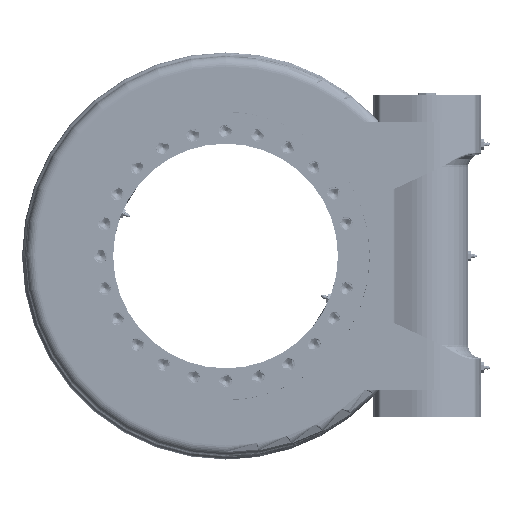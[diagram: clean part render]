
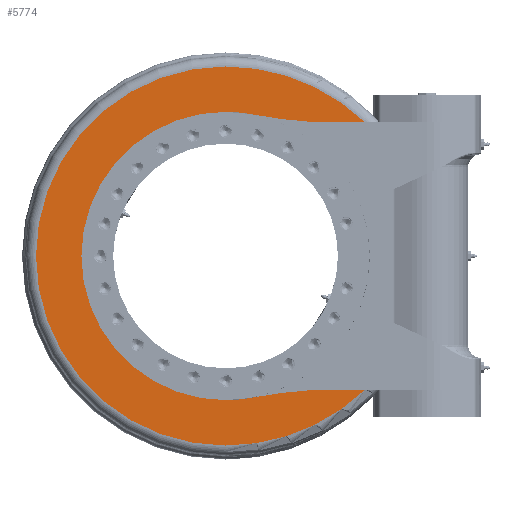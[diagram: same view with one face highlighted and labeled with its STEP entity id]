
A CAD part, left-side view. The second image highlights one B-rep face of the part: STEP entity #5774.
In plain terms, the highlighted planar face has unit normal (-1, 0, 0).
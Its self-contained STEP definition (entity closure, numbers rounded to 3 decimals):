
#441=PLANE('',#25455);
#3148=LINE('',#37338,#4502);
#3149=LINE('',#37347,#4503);
#4502=VECTOR('',#28990,1.);
#4503=VECTOR('',#28997,1.);
#5774=ADVANCED_FACE('',(#7474),#441,.F.);
#7474=FACE_OUTER_BOUND('',#8899,.T.);
#8899=EDGE_LOOP('',(#11212,#11213,#11214,#11215,#11216,#11217,#11218,#11219,
#11220,#11221));
#11212=ORIENTED_EDGE('',*,*,#20476,.T.);
#11213=ORIENTED_EDGE('',*,*,#20477,.T.);
#11214=ORIENTED_EDGE('',*,*,#20478,.T.);
#11215=ORIENTED_EDGE('',*,*,#20479,.T.);
#11216=ORIENTED_EDGE('',*,*,#20480,.T.);
#11217=ORIENTED_EDGE('',*,*,#20481,.T.);
#11218=ORIENTED_EDGE('',*,*,#20482,.F.);
#11219=ORIENTED_EDGE('',*,*,#20319,.F.);
#11220=ORIENTED_EDGE('',*,*,#20483,.F.);
#11221=ORIENTED_EDGE('',*,*,#20484,.T.);
#17987=VERTEX_POINT('',#36512);
#17988=VERTEX_POINT('',#36513);
#18077=VERTEX_POINT('',#37339);
#18078=VERTEX_POINT('',#37340);
#18079=VERTEX_POINT('',#37342);
#18080=VERTEX_POINT('',#37344);
#18081=VERTEX_POINT('',#37346);
#18082=VERTEX_POINT('',#37348);
#18083=VERTEX_POINT('',#37350);
#18084=VERTEX_POINT('',#37353);
#20319=EDGE_CURVE('',#17987,#17988,#23691,.T.);
#20476=EDGE_CURVE('',#18077,#18078,#3148,.T.);
#20477=EDGE_CURVE('',#18078,#18079,#23769,.T.);
#20478=EDGE_CURVE('',#18079,#18080,#23770,.T.);
#20479=EDGE_CURVE('',#18080,#18081,#23771,.T.);
#20480=EDGE_CURVE('',#18081,#18082,#3149,.T.);
#20481=EDGE_CURVE('',#18082,#18083,#23772,.T.);
#20482=EDGE_CURVE('',#17988,#18083,#23773,.T.);
#20483=EDGE_CURVE('',#18084,#17987,#23774,.T.);
#20484=EDGE_CURVE('',#18084,#18077,#23775,.T.);
#23691=CIRCLE('',#25337,170.);
#23769=CIRCLE('',#25448,238.5);
#23770=CIRCLE('',#25449,223.5);
#23771=CIRCLE('',#25450,238.5);
#23772=CIRCLE('',#25451,500.);
#23773=CIRCLE('',#25452,170.);
#23774=CIRCLE('',#25453,170.);
#23775=CIRCLE('',#25454,500.);
#25337=AXIS2_PLACEMENT_3D('',#36511,#28715,#28716);
#25448=AXIS2_PLACEMENT_3D('',#37341,#28991,#28992);
#25449=AXIS2_PLACEMENT_3D('',#37343,#28993,#28994);
#25450=AXIS2_PLACEMENT_3D('',#37345,#28995,#28996);
#25451=AXIS2_PLACEMENT_3D('',#37349,#28998,#28999);
#25452=AXIS2_PLACEMENT_3D('',#37351,#29000,#29001);
#25453=AXIS2_PLACEMENT_3D('',#37352,#29002,#29003);
#25454=AXIS2_PLACEMENT_3D('',#37354,#29004,#29005);
#25455=AXIS2_PLACEMENT_3D('',#37355,#29006,#29007);
#28715=DIRECTION('',(-1.,0.,0.));
#28716=DIRECTION('',(0.,0.,1.));
#28990=DIRECTION('',(0.,-1.,0.));
#28991=DIRECTION('',(-1.,0.,0.));
#28992=DIRECTION('',(0.,0.,-1.));
#28993=DIRECTION('',(-1.,0.,0.));
#28994=DIRECTION('',(0.,0.,-1.));
#28995=DIRECTION('',(-1.,0.,0.));
#28996=DIRECTION('',(0.,0.,-1.));
#28997=DIRECTION('',(0.,1.,0.));
#28998=DIRECTION('',(-1.,0.,0.));
#28999=DIRECTION('',(0.,0.,-1.));
#29000=DIRECTION('',(-1.,0.,0.));
#29001=DIRECTION('',(0.,0.,1.));
#29002=DIRECTION('',(-1.,0.,0.));
#29003=DIRECTION('',(0.,0.,1.));
#29004=DIRECTION('',(-1.,0.,0.));
#29005=DIRECTION('',(0.,0.,-1.));
#29006=DIRECTION('',(1.,0.,0.));
#29007=DIRECTION('',(0.,0.,1.));
#36511=CARTESIAN_POINT('',(-37.,0.,0.));
#36512=CARTESIAN_POINT('',(-37.,0.,170.));
#36513=CARTESIAN_POINT('',(-37.,0.,-170.));
#37338=CARTESIAN_POINT('',(-37.,170.,157.5));
#37339=CARTESIAN_POINT('',(-37.,-128.817,157.5));
#37340=CARTESIAN_POINT('',(-37.,-164.7,157.5));
#37341=CARTESIAN_POINT('',(-37.,0.,-15.));
#37342=CARTESIAN_POINT('',(-37.,0.,223.5));
#37343=CARTESIAN_POINT('',(-37.,0.,0.));
#37344=CARTESIAN_POINT('',(-37.,0.,-223.5));
#37345=CARTESIAN_POINT('',(-37.,0.,15.));
#37346=CARTESIAN_POINT('',(-37.,-164.7,-157.5));
#37347=CARTESIAN_POINT('',(-37.,170.,-157.5));
#37348=CARTESIAN_POINT('',(-37.,-128.817,-157.5));
#37349=CARTESIAN_POINT('',(-37.,-128.817,-657.5));
#37350=CARTESIAN_POINT('',(-37.,-32.685,-166.828));
#37351=CARTESIAN_POINT('',(-37.,0.,0.));
#37352=CARTESIAN_POINT('',(-37.,0.,0.));
#37353=CARTESIAN_POINT('',(-37.,-32.685,166.828));
#37354=CARTESIAN_POINT('',(-37.,-128.817,657.5));
#37355=CARTESIAN_POINT('',(-37.,170.,0.));
